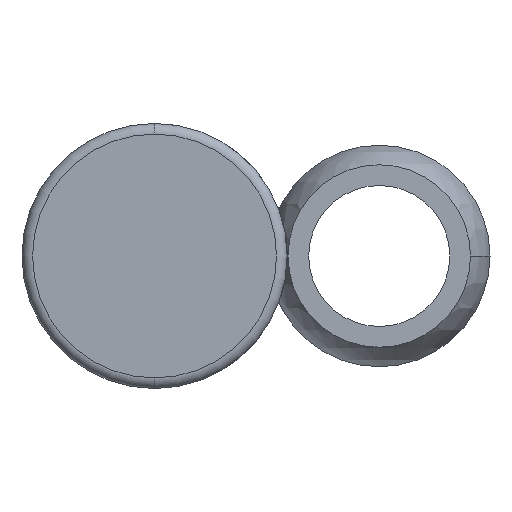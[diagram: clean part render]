
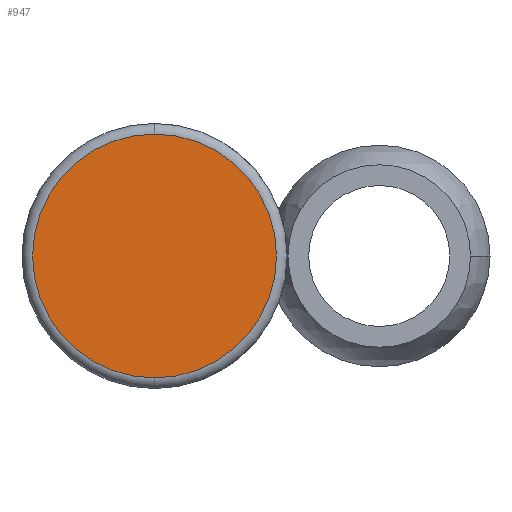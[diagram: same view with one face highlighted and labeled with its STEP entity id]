
A CAD part, front view. The second image highlights one B-rep face of the part: STEP entity #947.
In plain terms, the highlighted planar face has unit normal (0, -1, 0).
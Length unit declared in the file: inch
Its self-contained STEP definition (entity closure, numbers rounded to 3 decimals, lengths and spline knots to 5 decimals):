
#42 = ORIENTED_EDGE ( 'NONE', *, *, #474, .T. ) ;
#120 = AXIS2_PLACEMENT_3D ( 'NONE', #1087, #566, #1303 ) ;
#142 = CARTESIAN_POINT ( 'NONE',  ( 0., -1.26, 0. ) ) ;
#156 = DIRECTION ( 'NONE',  ( 0., 0., 1. ) ) ;
#280 = AXIS2_PLACEMENT_3D ( 'NONE', #1052, #950, #630 ) ;
#316 = EDGE_LOOP ( 'NONE', ( #863, #42 ) ) ;
#350 = DIRECTION ( 'NONE',  ( 0., -1., 0. ) ) ;
#474 = EDGE_CURVE ( 'NONE', #993, #1267, #1111, .T. ) ;
#566 = DIRECTION ( 'NONE',  ( 0., 1., 0. ) ) ;
#573 = PLANE ( 'NONE',  #120 ) ;
#630 = DIRECTION ( 'NONE',  ( 0., 0., 1. ) ) ;
#638 = CARTESIAN_POINT ( 'NONE',  ( 0., -1.26, -0.34402 ) ) ;
#718 = AXIS2_PLACEMENT_3D ( 'NONE', #142, #350, #156 ) ;
#853 = FACE_OUTER_BOUND ( 'NONE', #316, .T. ) ;
#863 = ORIENTED_EDGE ( 'NONE', *, *, #1234, .T. ) ;
#899 = CIRCLE ( 'NONE', #718, 0.34402 ) ;
#947 = ADVANCED_FACE ( 'NONE', ( #853 ), #573, .F. ) ;
#950 = DIRECTION ( 'NONE',  ( 0., -1., 0. ) ) ;
#993 = VERTEX_POINT ( 'NONE', #638 ) ;
#1052 = CARTESIAN_POINT ( 'NONE',  ( 0., -1.26, 0. ) ) ;
#1087 = CARTESIAN_POINT ( 'NONE',  ( 0., -1.26, 0. ) ) ;
#1111 = CIRCLE ( 'NONE', #280, 0.34402 ) ;
#1234 = EDGE_CURVE ( 'NONE', #1267, #993, #899, .T. ) ;
#1267 = VERTEX_POINT ( 'NONE', #1340 ) ;
#1303 = DIRECTION ( 'NONE',  ( 0., 0., 1. ) ) ;
#1340 = CARTESIAN_POINT ( 'NONE',  ( 0., -1.26, 0.34402 ) ) ;
